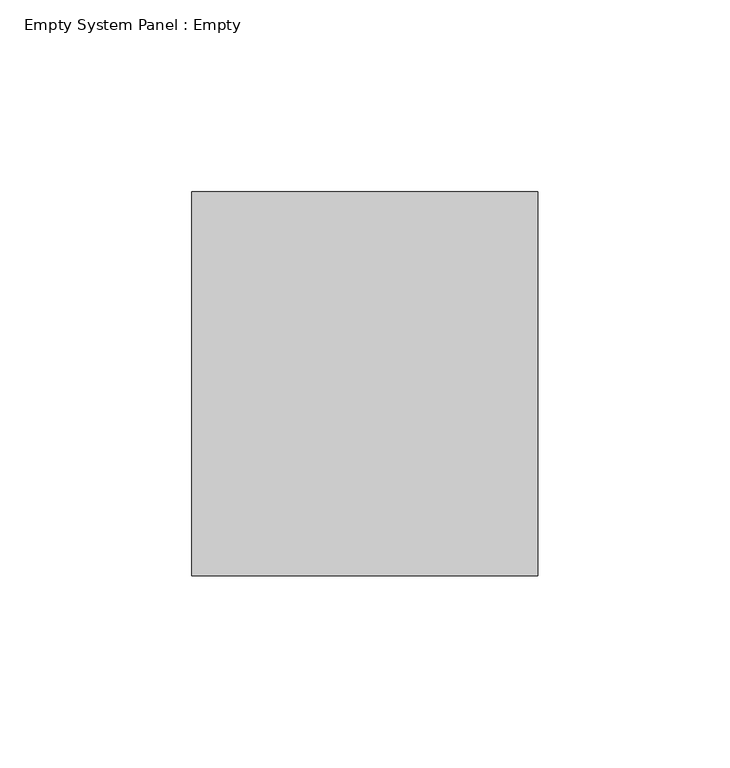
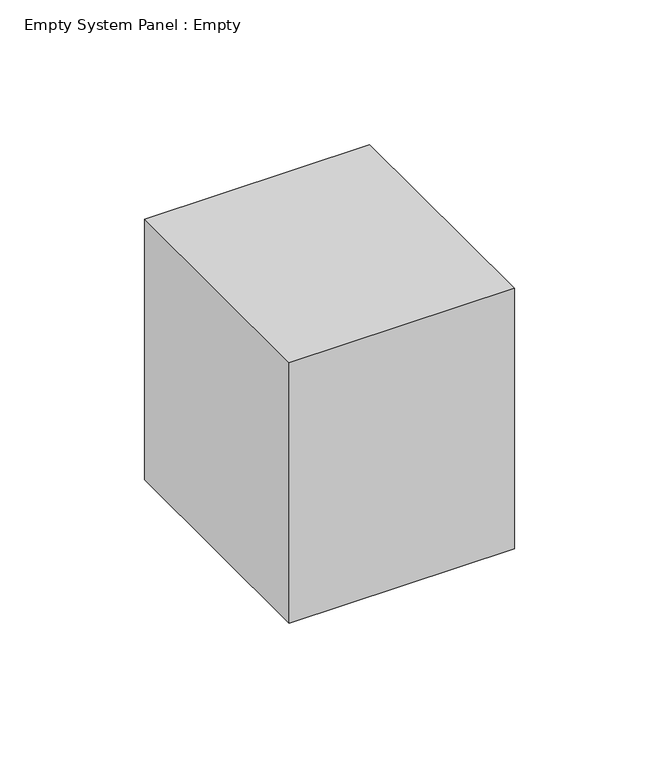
"""IFC4 building model written with IfcOpenShell, lengths in millimetres: plate geometry, Empty System Panel : Empty."""

from ifc_helpers import new_model, si_unit, origin, origin_with_axes, place, context, project, spatial, polyline, outline, extrude, source, transform, mapped, element, save


def empty_system_panel_empty_7f4523f5(model_context):
    return source(origin(), model_context, "Body", "SweptSolid", [
        extrude(outline(polyline([(45.0000002, 50.0), (-45.0000002, 50.0), (-45.0000002, 150.0), (45.0000002, 150.0), (45.0000002, 50.0)])), origin_with_axes(), (0.0, 0.0, 1.0), 110.0),
    ])


if __name__ == "__main__":
    model = new_model("IFC4")
    model_context = context("Model", 3, world=origin())
    ifc_project = project(units=[si_unit("LENGTHUNIT", "METRE", prefix="MILLI")], contexts=[model_context])
    site = spatial("IfcSite", under=ifc_project)
    building = spatial("IfcBuilding", under=site)
    placement = place(None, origin())
    empty_system_panel_empty_shape = empty_system_panel_empty_7f4523f5(model_context)
    element("IfcPlate", 1, ObjectType="Empty System Panel : Empty", at=placement, inside=building, context=model_context, shape_type="MappedRepresentation", body=[
        mapped(empty_system_panel_empty_shape, transform((0.0, 0.0, 0.0), x_axis=(1.0, 0.0, 0.0), y_axis=(0.0, 1.0, 0.0), z_axis=(0.0, 0.0, 1.0))),
    ])
    save(model, "model.ifc")
